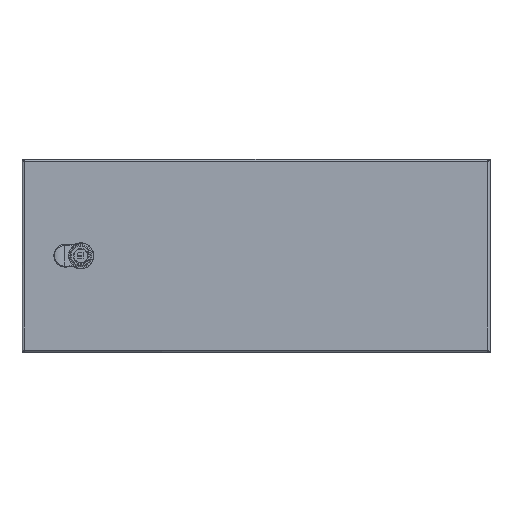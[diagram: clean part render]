
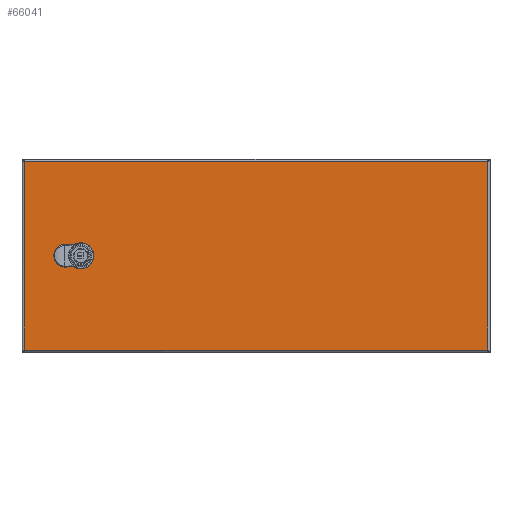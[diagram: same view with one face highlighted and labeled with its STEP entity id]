
A CAD part, top view. The second image highlights one B-rep face of the part: STEP entity #66041.
In plain terms, the highlighted planar face has unit normal (0, 0, 1).
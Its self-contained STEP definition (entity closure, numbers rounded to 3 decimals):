
#59951=CARTESIAN_POINT(' ',(308.602,110.657,253.699));
#59952=VERTEX_POINT(' ',#59951);
#60616=CARTESIAN_POINT(' ',(308.602,-128.743,253.699));
#60617=VERTEX_POINT(' ',#60616);
#61591=CARTESIAN_POINT(' ',(308.602,110.657,253.699));
#61596=DIRECTION(' ',(0.,-1.,0.));
#61601=VECTOR(' ',#61596,1.);
#61606=LINE('',#61591,#61601);
#61611=EDGE_CURVE(' ',#59952,#60617,#61606,.T.);
#63846=CARTESIAN_POINT(' ',(-279.798,-128.743,253.699));
#63847=VERTEX_POINT(' ',#63846);
#64461=CARTESIAN_POINT(' ',(-279.798,110.657,253.699));
#64462=VERTEX_POINT(' ',#64461);
#65911=DIRECTION(' ',(-0.,-0.,1.));
#65916=CARTESIAN_POINT(' ',(308.602,-128.743,253.699));
#65921=DIRECTION(' ',(0.,1.,0.));
#65926=AXIS2_PLACEMENT_3D(' ',#65916,#65911,#65921);
#65931=PLANE('NONE',#65926);
#65936=CARTESIAN_POINT(' ',(-279.798,-128.743,253.699));
#65941=DIRECTION(' ',(1.,0.,0.));
#65946=VECTOR(' ',#65941,1.);
#65951=LINE('',#65936,#65946);
#65956=EDGE_CURVE(' ',#63847,#60617,#65951,.T.);
#65961=ORIENTED_EDGE(' ',*,*,#65956,.T.);
#65966=ORIENTED_EDGE(' ',*,*,#61611,.F.);
#65971=CARTESIAN_POINT(' ',(308.602,110.657,253.699));
#65976=DIRECTION(' ',(-1.,0.,0.));
#65981=VECTOR(' ',#65976,1.);
#65986=LINE('',#65971,#65981);
#65991=EDGE_CURVE(' ',#59952,#64462,#65986,.T.);
#65996=ORIENTED_EDGE(' ',*,*,#65991,.T.);
#66001=CARTESIAN_POINT(' ',(-279.798,110.657,253.699));
#66006=DIRECTION(' ',(0.,-1.,0.));
#66011=VECTOR(' ',#66006,1.);
#66016=LINE('',#66001,#66011);
#66021=EDGE_CURVE(' ',#64462,#63847,#66016,.T.);
#66026=ORIENTED_EDGE(' ',*,*,#66021,.T.);
#66031=EDGE_LOOP(' ',(#65961,#65966,#65996,#66026));
#66036=FACE_OUTER_BOUND(' ',#66031,.T.);
#66041=ADVANCED_FACE('NONE',(#66036),#65931,.T.);
